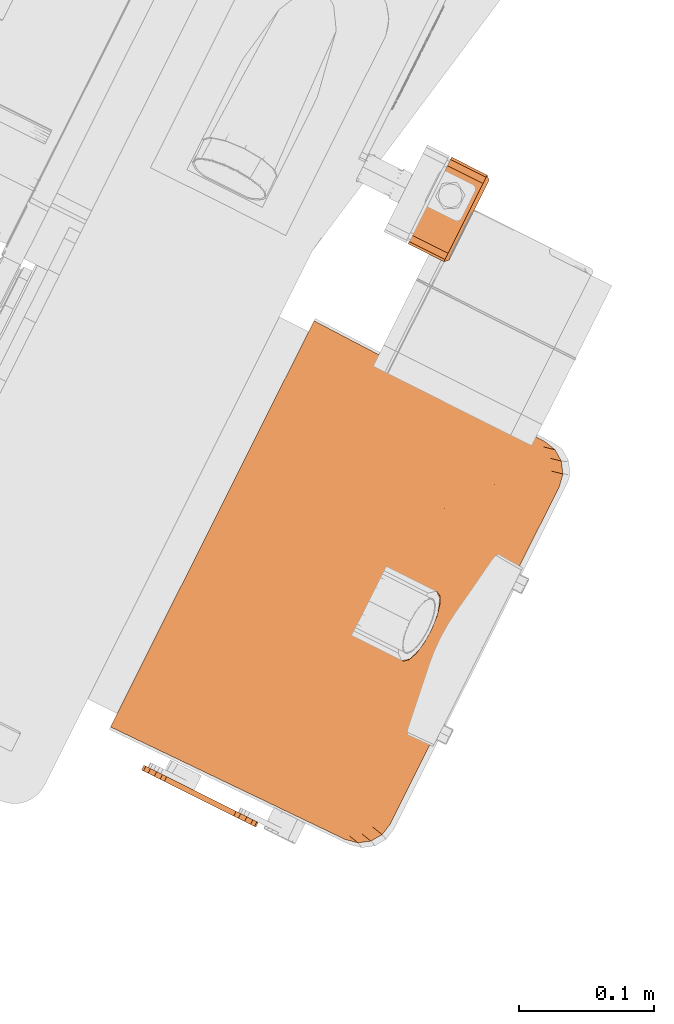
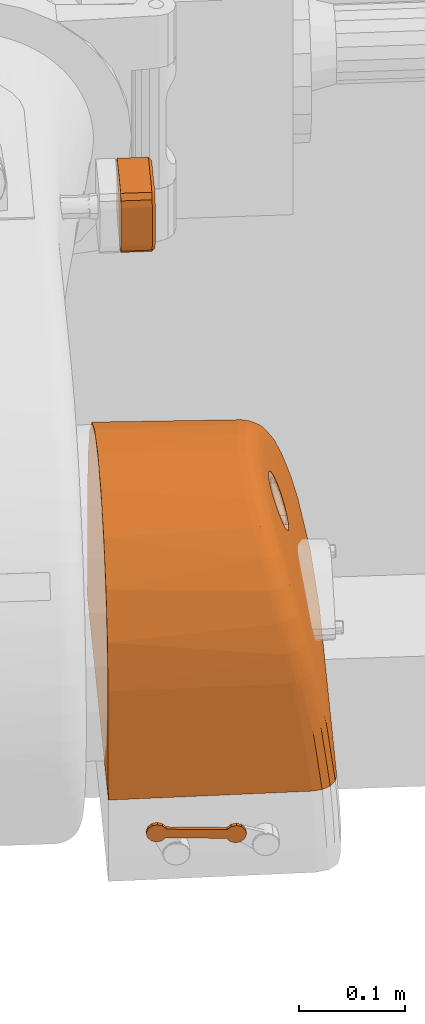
# One storey, part 187 of 206: 3 proxies.
"""IFC2X3 building model written with IfcOpenShell, lengths in metres."""

import ifcopenshell
import ifcopenshell.guid

model = None  # the IFC model being written
_history = None  # IfcOwnerHistory: only IFC2X3 demands one
_inside = {}  # id of a spatial element -> (the spatial element, [elements in it])
_under = {}  # id of a project, library or spatial element -> (it, [spatial elements below it])
_declared = {}  # id of a project -> (the project, [libraries it declares])
_typed = {}  # id of a type object -> (the type object, [elements of that type])
_made_of = {}  # id of a material, layer set ... -> (it, [elements and type objects made of it])


def new_model(schema):
    """Start an empty IFC model of exactly this schema.

    Asked for "IFC4X3", IfcOpenShell would pick the latest addendum, in which some entities
    have other attributes; the version numbers below select the first issue.
    IFC2X3 requires an IfcOwnerHistory on every rooted entity: one is made here for all.
    """
    global model, _history
    if schema == "IFC4X3":
        model = ifcopenshell.file(schema_version=(4, 3, 0, 0))
    else:
        model = ifcopenshell.file(schema=schema)
    _inside.clear()
    _under.clear()
    _declared.clear()
    _typed.clear()
    _made_of.clear()
    _history = None
    if model.schema == "IFC2X3":
        org = make("IfcOrganization", Name="unknown")
        user = make(
            "IfcPersonAndOrganization",
            ThePerson=make("IfcPerson", FamilyName="unknown"),
            TheOrganization=org,
        )
        app = make(
            "IfcApplication",
            ApplicationDeveloper=org,
            Version="unknown",
            ApplicationFullName="unknown",
            ApplicationIdentifier="unknown",
        )
        _history = make(
            "IfcOwnerHistory",
            OwningUser=user,
            OwningApplication=app,
            ChangeAction="ADDED",
            CreationDate=0,
        )
    return model


def make(cls, **values):
    """One entity of the class cls with the attributes given. An attribute that is None is left unset."""
    return model.create_entity(
        cls, **{name: value for name, value in values.items() if value is not None}
    )


def rooted(cls, **values):
    """An entity with a GlobalId (a new one), such as an element, a storey or a relation."""
    return make(cls, GlobalId=ifcopenshell.guid.new(), OwnerHistory=_history, **values)


def si_unit(unit_type, name, prefix=None):
    """IfcSIUnit, for example si_unit("LENGTHUNIT", "METRE", prefix="MILLI")."""
    return make("IfcSIUnit", UnitType=unit_type, Prefix=prefix, Name=name)


def derived_unit(unit_type, elements):
    """IfcDerivedUnit: a product of units, each with its exponent."""
    return make(
        "IfcDerivedUnit",
        Elements=[
            make("IfcDerivedUnitElement", Unit=unit, Exponent=power)
            for unit, power in elements
        ],
        UnitType=unit_type,
    )


def assignment(units):
    """IfcUnitAssignment: the units of a project."""
    return None if units is None else make("IfcUnitAssignment", Units=units)


def point(xyz):
    """IfcCartesianPoint."""
    return None if xyz is None else make("IfcCartesianPoint", Coordinates=xyz)


def direction(xyz):
    """IfcDirection."""
    return None if xyz is None else make("IfcDirection", DirectionRatios=xyz)


def frame(location, z_axis=None, x_axis=None):
    """IfcAxis2Placement3D, a coordinate frame: its origin and axes. An axis left out is left unset."""
    return make(
        "IfcAxis2Placement3D",
        Location=point(location),
        Axis=direction(z_axis),
        RefDirection=direction(x_axis),
    )


def origin():
    """The frame at (0, 0, 0) with its axes left unset."""
    return frame((0.0, 0.0, 0.0))


def place(relative_to, where):
    """IfcLocalPlacement: puts the frame where relative to a parent placement (None: the world)."""
    return make(
        "IfcLocalPlacement", PlacementRelTo=relative_to, RelativePlacement=where
    )


def context(
    kind, dimensions, precision=None, world=None, true_north=None, identifier=None
):
    """IfcGeometricRepresentationContext, for example the 3D "Model" context."""
    return make(
        "IfcGeometricRepresentationContext",
        ContextIdentifier=identifier,
        ContextType=kind,
        CoordinateSpaceDimension=dimensions,
        Precision=precision,
        WorldCoordinateSystem=world,
        TrueNorth=true_north,
    )


def subcontext(parent, identifier, kind, view, scale=None):
    """IfcGeometricRepresentationSubContext, for example "Body" below "Model"."""
    return make(
        "IfcGeometricRepresentationSubContext",
        ContextIdentifier=identifier,
        ContextType=kind,
        ParentContext=parent,
        TargetScale=scale,
        TargetView=view,
    )


def project(units=None, contexts=None):
    """IfcProject with its units and contexts."""
    return rooted(
        "IfcProject",
        Name="project",
        RepresentationContexts=contexts,
        UnitsInContext=assignment(units),
    )


def spatial(cls, under=None, at=None, **own):
    """A site, building, storey or space (cls), placed at a placement, below another one or the project."""
    s = rooted(cls, ObjectPlacement=at, **own)
    if under is not None:
        _under.setdefault(under.id(), (under, []))[1].append(s)
    return s


def faces_of(points, faces, orient=None, outer=None):
    """IfcFace entities. A face is a list of loops; a loop is a list of indices into points, from 0.

    orient and outer hold one flag for each loop. By default every Orientation is true, the
    first loop of a face is its IfcFaceOuterBound and the others are IfcFaceBound.
    """
    made = []
    for i, loops in enumerate(faces):
        bounds = []
        for j, loop in enumerate(loops):
            is_outer = j == 0 if outer is None else outer[i][j]
            bounds.append(
                make(
                    "IfcFaceOuterBound" if is_outer else "IfcFaceBound",
                    Bound=make("IfcPolyLoop", Polygon=[points[k] for k in loop]),
                    Orientation=True if orient is None else orient[i][j],
                )
            )
        made.append(make("IfcFace", Bounds=bounds))
    return made


def face_set(faces, orient=None, outer=None):
    """The faces of one IfcConnectedFaceSet. surface_model builds it on its shared points."""
    return ("IfcConnectedFaceSet", faces, orient, outer)


def faceted_brep(points, faces, orient=None, outer=None, voids=None):
    """IfcFacetedBrep: a solid bounded by flat faces; with voids (closed shells), ...WithVoids."""
    shared = [point(p) for p in points]
    hull = make("IfcClosedShell", CfsFaces=faces_of(shared, faces, orient, outer))
    if voids is None:
        return make("IfcFacetedBrep", Outer=hull)
    return make(
        "IfcFacetedBrepWithVoids",
        Outer=hull,
        Voids=[
            make(cls, CfsFaces=faces_of(shared, fs, o, b)) for cls, fs, o, b in voids
        ],
    )


def surface_model(cls, points, shells):
    """IfcFaceBasedSurfaceModel or IfcShellBasedSurfaceModel (cls): surfaces that need not close."""
    shared = [point(p) for p in points]
    made = [make(c, CfsFaces=faces_of(shared, fs, o, b)) for c, fs, o, b in shells]
    if cls == "IfcFaceBasedSurfaceModel":
        return make(cls, FbsmFaces=made)
    return make(cls, SbsmBoundary=made)


def shape(context_of_items, identifier, shape_type, items):
    """IfcShapeRepresentation: the items that make up one representation, for example the "Body"."""
    return make(
        "IfcShapeRepresentation",
        ContextOfItems=context_of_items,
        RepresentationIdentifier=identifier,
        RepresentationType=shape_type,
        Items=items,
    )


def source(mapping_origin, context_of_items, identifier, shape_type, items):
    """IfcRepresentationMap: a shape defined once, which mapped items show again and again."""
    return make(
        "IfcRepresentationMap",
        MappingOrigin=mapping_origin,
        MappedRepresentation=shape(context_of_items, identifier, shape_type, items),
    )


def transform(
    local_origin,
    x_axis=None,
    y_axis=None,
    z_axis=None,
    scale=None,
    scale2=None,
    scale3=None,
    uniform=True,
):
    """IfcCartesianTransformationOperator3D, or its non-uniform kind. x_axis, y_axis, z_axis: its Axis1, 2, 3."""
    if uniform:
        return make(
            "IfcCartesianTransformationOperator3D",
            Axis1=direction(x_axis),
            Axis2=direction(y_axis),
            LocalOrigin=point(local_origin),
            Scale=scale,
            Axis3=direction(z_axis),
        )
    return make(
        "IfcCartesianTransformationOperator3DnonUniform",
        Axis1=direction(x_axis),
        Axis2=direction(y_axis),
        LocalOrigin=point(local_origin),
        Scale=scale,
        Axis3=direction(z_axis),
        Scale2=scale2,
        Scale3=scale3,
    )


def mapped(mapping_source, mapping_target):
    """IfcMappedItem: shows the shape of a source again, moved by a transform."""
    return make(
        "IfcMappedItem", MappingSource=mapping_source, MappingTarget=mapping_target
    )


def material(Name=None, Category=None):
    """IfcMaterial."""
    return make("IfcMaterial", Name=Name, Category=Category)


def made_of(thing, what):
    """Note that an element or type object is made of a material, layer set ...; save() writes the relation."""
    if what is not None:
        _made_of.setdefault(what.id(), (what, []))[1].append(thing)
    return thing


def type_object(cls, material=None, **own):
    """A type object (cls), such as IfcWallType, which elements share."""
    return made_of(rooted(cls, **own), material)


def type_shapes(of_type, sources):
    """Give a type object the sources (RepresentationMaps) that its elements show as mapped items."""
    of_type.RepresentationMaps = sources


def element(
    cls,
    number,
    at=None,
    inside=None,
    cuts=None,
    type_object=None,
    material=None,
    context=None,
    identifier="Body",
    shape_type=None,
    held_by="IfcProductDefinitionShape",
    body=None,
    shapes=None,
    **own,
):
    """One element of the class cls, such as IfcWall. Its Tag is "e" and its number.

    at: its placement. inside: the storey or other place that contains it. cuts: it is an
    opening in that element (IfcRelVoidsElement). A single representation is given by context,
    identifier, shape_type and body (its items); several are given by shapes. held_by: the class
    of the entity that holds the representations. save() writes the other relations.
    """
    e = rooted(cls, Tag="e%d" % number, ObjectPlacement=at, **own)
    if body is not None:
        shapes = [shape(context, identifier, shape_type, body)]
    if shapes is not None:
        e.Representation = make(held_by, Representations=shapes)
    if inside is not None:
        _inside.setdefault(inside.id(), (inside, []))[1].append(e)
    if cuts is not None:
        rooted(
            "IfcRelVoidsElement", RelatingBuildingElement=cuts, RelatedOpeningElement=e
        )
    if type_object is not None:
        _typed.setdefault(type_object.id(), (type_object, []))[1].append(e)
    return made_of(e, material)


def aggregate(whole, parts):
    """IfcRelAggregates: a whole, such as a stair, and the parts it consists of."""
    return rooted("IfcRelAggregates", RelatingObject=whole, RelatedObjects=parts)


def save(model, path):
    """Write the relations noted so far, then the file.

    IfcRelAggregates (storeys below a building ...), IfcRelContainedInSpatialStructure (elements
    in a storey), IfcRelDefinesByType, IfcRelAssociatesMaterial and IfcRelDeclares: one each for
    every whole, place, type object, material and project.
    """
    for whole, parts in _under.values():
        aggregate(whole, parts)
    for where, things in _inside.values():
        rooted(
            "IfcRelContainedInSpatialStructure",
            RelatedElements=things,
            RelatingStructure=where,
        )
    for kind, things in _typed.values():
        rooted("IfcRelDefinesByType", RelatedObjects=things, RelatingType=kind)
    for what, things in _made_of.values():
        rooted("IfcRelAssociatesMaterial", RelatedObjects=things, RelatingMaterial=what)
    for by, libraries in _declared.values():
        rooted("IfcRelDeclares", RelatingContext=by, RelatedDefinitions=libraries)
    model.write(path)


model = new_model("IFC2X3")

# Units and contexts
model_context = context("Model", 3, precision=5.2338327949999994e-05, world=origin(), true_north=direction((0.0, 1.0)))
body_context = subcontext(model_context, "Body", "Model", "MODEL_VIEW")
ifc_project = project(units=[si_unit("LENGTHUNIT", "METRE"), si_unit("AREAUNIT", "SQUARE_METRE"), si_unit("VOLUMEUNIT", "CUBIC_METRE"), si_unit("MASSUNIT", "GRAM", prefix="KILO"), si_unit("PLANEANGLEUNIT", "RADIAN"), derived_unit("THERMALTRANSMITTANCEUNIT", [(si_unit("MASSUNIT", "GRAM", prefix="KILO"), 1), (si_unit("THERMODYNAMICTEMPERATUREUNIT", "KELVIN"), -1), (si_unit("TIMEUNIT", "SECOND"), -3)])], contexts=[model_context])

# Site, building, storey
site_placement = place(None, frame((0.0, 0.0, 0.0), z_axis=(0.0, 0.0, 1.0), x_axis=(0.8939966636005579, -0.4480736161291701, 0.0)))
site = spatial("IfcSite", under=ifc_project, at=site_placement, Name="Default", CompositionType="ELEMENT")
building_placement = place(site_placement, origin())
building = spatial("IfcBuilding", under=site, at=building_placement, CompositionType="ELEMENT")
storey_placement = place(building_placement, origin())
storey = spatial("IfcBuildingStorey", under=building, at=storey_placement, Name="Erdgeschoss", CompositionType="ELEMENT", Elevation=0.0)

# Proxies
ifc_material_1 = material(Name="IfcSurfaceStyle #626231")
building_element_proxy_type_1 = type_object("IfcBuildingElementProxyType", Name="BuildingElementProxy 93:BuildingElementProxy 93", PredefinedType="NOTDEFINED", material=ifc_material_1)
shared_shape_1 = source(origin(), body_context, "Body", "SurfaceModel", [
    surface_model("IfcFaceBasedSurfaceModel", [(21.707551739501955, 4.211035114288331, 0.8123468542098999), (21.706747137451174, 4.1999828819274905, 0.8145539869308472), (21.67459561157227, 4.1999828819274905, 0.8145539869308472), (21.70681224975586, 4.196799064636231, 0.8143772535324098), (21.67459561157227, 4.185595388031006, 0.8106987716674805), (21.70806798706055, 4.185986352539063, 0.8109205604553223), (21.710574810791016, 4.177632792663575, 0.8039030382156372), (21.67459561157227, 4.175062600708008, 0.8001662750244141), (21.71393972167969, 4.1724708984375, 0.7942116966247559), (21.67459561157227, 4.17120760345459, 0.7857784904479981), (21.717492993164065, 4.171289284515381, 0.7836099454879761), (21.67459561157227, 4.175062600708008, 0.771390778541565), (21.720902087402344, 4.174175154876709, 0.7730510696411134), (21.72361354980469, 4.180772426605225, 0.7643547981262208), (21.67459561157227, 4.185595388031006, 0.7608582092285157), (21.72535530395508, 4.190465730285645, 0.7586225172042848), (21.67459561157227, 4.1999828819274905, 0.7570029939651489), (21.725827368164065, 4.201566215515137, 0.757046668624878), (21.724971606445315, 4.212559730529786, 0.7598969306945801), (21.67459561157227, 4.214370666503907, 0.7608582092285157), (21.722939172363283, 4.221387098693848, 0.7665460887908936), (21.67459561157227, 4.224903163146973, 0.771390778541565), (21.719962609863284, 4.227048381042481, 0.7760063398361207), (21.67459561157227, 4.2287584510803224, 0.7857784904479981), (21.716497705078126, 4.228745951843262, 0.7866227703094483), (21.712918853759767, 4.226400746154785, 0.7971862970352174), (21.67459561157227, 4.224903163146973, 0.8001662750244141), (21.709765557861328, 4.220265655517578, 0.8061901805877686), (21.67459561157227, 4.214370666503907, 0.8106987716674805), (21.763087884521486, 4.058703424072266, 0.5663724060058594), (21.76122288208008, 4.049255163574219, 0.5663724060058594), (21.75591157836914, 4.041218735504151, 0.5663724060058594), (21.747935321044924, 4.0357873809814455, 0.5663724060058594), (21.738480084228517, 4.0337665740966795, 0.5663724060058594), (21.545196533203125, 4.030391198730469, 0.5663724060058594), (21.763087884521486, 4.339213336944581, 0.5663724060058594), (21.545196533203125, 4.367525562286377, 0.5663724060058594), (21.738480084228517, 4.364150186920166, 0.5663724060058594), (21.747935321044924, 4.362129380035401, 0.5663724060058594), (21.75591157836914, 4.356698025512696, 0.5663724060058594), (21.76122288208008, 4.348661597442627, 0.5663724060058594), (21.545196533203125, 4.363726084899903, 0.689128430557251), (21.545196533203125, 4.0341906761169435, 0.689128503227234), (21.545196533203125, 4.354273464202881, 0.7386798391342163), (21.545196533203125, 4.043643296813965, 0.7386798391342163), (21.545196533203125, 4.330280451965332, 0.7830535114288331), (21.545196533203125, 4.0676363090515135, 0.783053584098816), (21.545196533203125, 4.293993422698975, 0.8180954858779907), (21.545196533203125, 4.1039233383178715, 0.8180954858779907), (21.545196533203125, 4.248809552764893, 0.8405250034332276), (21.545196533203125, 4.149107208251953, 0.8405250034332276), (21.545196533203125, 4.198958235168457, 0.8482423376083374), (21.73058754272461, 4.035512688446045, 0.6272399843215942), (21.718537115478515, 4.037214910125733, 0.6890288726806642), (21.739873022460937, 4.037570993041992, 0.6286839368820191), (21.74771672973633, 4.043022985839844, 0.6297997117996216), (21.75296292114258, 4.0510617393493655, 0.6304220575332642), (21.75483024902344, 4.060496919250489, 0.6304589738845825), (21.7424844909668, 4.062197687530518, 0.6937756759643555), (21.74062646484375, 4.052777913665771, 0.6936251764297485), (21.73841497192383, 4.048508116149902, 0.6932436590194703), (21.735447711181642, 4.044747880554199, 0.6926743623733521), (21.73183630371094, 4.041637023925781, 0.6919386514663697), (21.72771329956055, 4.039291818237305, 0.6910637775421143), (21.723232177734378, 4.037799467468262, 0.6900825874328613), (21.754834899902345, 4.337420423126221, 0.6304337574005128), (21.752967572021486, 4.346855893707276, 0.6303969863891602), (21.747721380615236, 4.354894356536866, 0.6297747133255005), (21.73987534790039, 4.360346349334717, 0.6286591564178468), (21.730592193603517, 4.362404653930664, 0.6272154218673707), (21.71856036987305, 4.360701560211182, 0.689031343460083), (21.723241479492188, 4.360115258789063, 0.6900845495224), (21.725099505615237, 4.359613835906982, 0.6904947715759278), (21.727697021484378, 4.358631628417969, 0.6910605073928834), (21.731840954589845, 4.3562768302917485, 0.6919394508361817), (21.735440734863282, 4.353177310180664, 0.6926727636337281), (21.73841497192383, 4.349409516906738, 0.6932435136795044), (21.740624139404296, 4.345144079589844, 0.693624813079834), (21.7424844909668, 4.335719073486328, 0.6937756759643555), (21.733864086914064, 4.0565608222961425, 0.7217988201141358), (21.73602907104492, 4.065494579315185, 0.7203404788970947), (21.72915042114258, 4.073590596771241, 0.7456650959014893), (21.72666685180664, 4.065456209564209, 0.7485070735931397), (21.72217177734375, 4.086223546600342, 0.7690120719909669), (21.719376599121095, 4.079136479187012, 0.7730066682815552), (21.715534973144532, 4.102960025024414, 0.7895028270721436), (21.712453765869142, 4.097102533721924, 0.7944089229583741), (21.70964696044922, 4.123396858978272, 0.8065207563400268), (21.706330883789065, 4.118904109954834, 0.812112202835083), (21.705014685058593, 4.146751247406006, 0.819259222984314), (21.701519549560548, 4.143708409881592, 0.8253218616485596), (21.702021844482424, 4.172362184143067, 0.8272139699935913), (21.698419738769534, 4.170831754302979, 0.8335528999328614), (21.700996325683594, 4.198960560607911, 0.8298952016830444), (21.697354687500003, 4.198960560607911, 0.8363240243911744), (21.698431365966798, 4.227224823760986, 0.8335204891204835), (21.691994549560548, 4.198960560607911, 0.8414081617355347), (21.6930735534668, 4.228626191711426, 0.8385046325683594), (21.685383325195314, 4.198960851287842, 0.8447036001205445), (21.686434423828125, 4.2297665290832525, 0.8416923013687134), (21.67809539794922, 4.198959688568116, 0.8459226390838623), (21.679109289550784, 4.230542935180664, 0.8428005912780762), (21.702033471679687, 4.225686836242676, 0.8271826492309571), (21.701531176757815, 4.254295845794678, 0.8252914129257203), (21.696180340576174, 4.257059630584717, 0.8299773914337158), (21.689471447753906, 4.259281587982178, 0.8328511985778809), (21.682023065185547, 4.260730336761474, 0.8336544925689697), (21.70502631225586, 4.251248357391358, 0.8192297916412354), (21.706351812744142, 4.279104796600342, 0.8120536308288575), (21.701012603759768, 4.283153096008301, 0.8162463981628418), (21.694185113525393, 4.2863473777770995, 0.8186233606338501), (21.686553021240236, 4.2883728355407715, 0.8189434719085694), (21.709667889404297, 4.2746065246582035, 0.8064642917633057), (21.712449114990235, 4.3008011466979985, 0.7944217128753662), (21.70713083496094, 4.306021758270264, 0.7979311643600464), (21.70380545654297, 4.308211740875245, 0.7990350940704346), (21.7140978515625, 4.325051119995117, 0.7756044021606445), (21.710700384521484, 4.327622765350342, 0.7763097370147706), (21.721395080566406, 4.339528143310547, 0.7501454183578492), (21.717925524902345, 4.34238465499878, 0.7504023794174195), (21.72865975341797, 4.349067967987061, 0.7221211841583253), (21.725115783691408, 4.352106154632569, 0.7218926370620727), (21.715530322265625, 4.294944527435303, 0.7895151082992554), (21.71938822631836, 4.318802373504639, 0.7729663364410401), (21.72218572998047, 4.311714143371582, 0.7689734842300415), (21.726652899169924, 4.33244165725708, 0.7485507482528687), (21.72433676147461, 4.336176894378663, 0.7495207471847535), (21.733880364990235, 4.341371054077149, 0.7217321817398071), (21.731615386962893, 4.345446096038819, 0.7220665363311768), (21.729138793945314, 4.324309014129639, 0.745706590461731), (21.736043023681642, 4.332435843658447, 0.7202774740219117), (21.72110905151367, 4.354458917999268, 0.7213905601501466), (21.716774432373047, 4.356039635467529, 0.7206308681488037), (21.709867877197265, 4.346266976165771, 0.7497963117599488), (21.705535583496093, 4.347165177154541, 0.7489537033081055), (21.698754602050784, 4.332248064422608, 0.7757748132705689), (21.712270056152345, 4.356796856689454, 0.7196417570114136), (21.70291481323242, 4.331280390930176, 0.7763906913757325), (21.69226895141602, 4.312426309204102, 0.7994227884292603), (21.696271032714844, 4.311454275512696, 0.7997936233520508), (21.68642279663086, 4.168302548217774, 0.8417271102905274), (21.679097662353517, 4.1675287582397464, 0.8428367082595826), (21.689459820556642, 4.138730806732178, 0.8328839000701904), (21.682013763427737, 4.137245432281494, 0.8336768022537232), (21.694164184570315, 4.111669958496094, 0.8186863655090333), (21.68653209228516, 4.10964944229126, 0.8190135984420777), (21.696273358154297, 4.0864479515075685, 0.7997795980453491), (21.692271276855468, 4.085487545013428, 0.7994186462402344), (21.702903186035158, 4.066660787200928, 0.7764345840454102), (21.698740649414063, 4.065695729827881, 0.7758242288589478), (21.709879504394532, 4.0516291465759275, 0.7497487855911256), (21.70554721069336, 4.050731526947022, 0.7489041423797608), (21.716758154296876, 4.041893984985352, 0.7207032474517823), (21.712256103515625, 4.04113531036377, 0.7197067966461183), (21.721090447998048, 4.043474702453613, 0.7214623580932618), (21.71405366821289, 4.053239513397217, 0.7502383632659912), (21.70692387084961, 4.0682202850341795, 0.7766185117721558), (21.700154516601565, 4.087862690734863, 0.7996485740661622), (21.703807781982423, 4.089691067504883, 0.7990215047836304), (21.700991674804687, 4.114860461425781, 0.8163071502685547), (21.707135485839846, 4.091881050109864, 0.797917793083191), (21.725099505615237, 4.045827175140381, 0.7219635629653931), (21.728643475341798, 4.0488653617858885, 0.7221908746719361), (21.73159910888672, 4.052486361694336, 0.7221347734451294), (21.69305960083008, 4.169437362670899, 0.8385382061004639), (21.70015219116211, 4.310039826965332, 0.7996623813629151), (21.706937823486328, 4.329720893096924, 0.7765752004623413), (21.714042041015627, 4.344656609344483, 0.7502853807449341), (21.714083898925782, 4.07288889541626, 0.7756462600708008), (21.724348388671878, 4.061720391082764, 0.7494760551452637), (21.71068875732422, 4.07031812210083, 0.7763523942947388), (21.721409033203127, 4.058368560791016, 0.7500997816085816), (21.717939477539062, 4.05551146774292, 0.7503560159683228), (21.696168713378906, 4.140949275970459, 0.8300089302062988)], [face_set([[[0, 1, 2]], [[2, 1, 3]], [[2, 3, 4]], [[4, 3, 5]], [[4, 5, 6]], [[4, 6, 7]], [[7, 6, 8]], [[7, 8, 9]], [[9, 8, 10]], [[9, 10, 11]], [[11, 10, 12]], [[11, 12, 13]], [[11, 13, 14]], [[14, 13, 15]], [[14, 15, 16]], [[16, 15, 17]], [[16, 17, 18]], [[16, 18, 19]], [[19, 18, 20]], [[19, 20, 21]], [[21, 20, 22]], [[21, 22, 23]], [[23, 22, 24]], [[23, 24, 25]], [[23, 25, 26]], [[26, 25, 27]], [[26, 27, 28]], [[28, 27, 0]], [[28, 0, 2]], [[26, 28, 4]], [[26, 4, 7]], [[23, 26, 7]], [[23, 7, 9]], [[23, 9, 21]], [[21, 9, 11]], [[21, 11, 19]], [[19, 11, 14]], [[19, 14, 16]], [[28, 2, 4]], [[29, 30, 31]], [[29, 31, 32]], [[29, 32, 33]], [[29, 33, 34]], [[35, 29, 34]], [[34, 36, 35]], [[35, 36, 37]], [[35, 37, 38]], [[38, 39, 35]], [[35, 39, 40]], [[36, 34, 41]], [[41, 34, 42]], [[41, 42, 43]], [[43, 42, 44]], [[43, 44, 45]], [[45, 44, 46]], [[45, 46, 47]], [[47, 46, 48]], [[47, 48, 49]], [[49, 48, 50]], [[49, 50, 51]], [[33, 52, 34]], [[34, 52, 42]], [[52, 53, 42]], [[54, 52, 33]], [[54, 33, 32]], [[55, 54, 32]], [[55, 32, 31]], [[56, 55, 31]], [[56, 31, 30]], [[56, 30, 29]], [[29, 57, 56]], [[56, 57, 58]], [[56, 58, 59]], [[56, 59, 60]], [[56, 60, 55]], [[55, 60, 61]], [[61, 62, 55]], [[55, 62, 54]], [[62, 63, 54]], [[54, 63, 64]], [[54, 64, 52]], [[52, 64, 53]], [[65, 35, 66]], [[66, 35, 40]], [[66, 40, 39]], [[66, 39, 67]], [[67, 39, 38]], [[67, 38, 68]], [[68, 38, 37]], [[68, 37, 69]], [[69, 70, 71]], [[69, 71, 68]], [[68, 71, 72]], [[68, 72, 73]], [[68, 73, 74]], [[68, 74, 67]], [[67, 74, 75]], [[67, 75, 76]], [[67, 76, 66]], [[76, 77, 66]], [[66, 77, 78]], [[78, 65, 66]], [[59, 58, 79]], [[79, 58, 80]], [[79, 80, 81]], [[79, 81, 82]], [[82, 81, 83]], [[82, 83, 84]], [[84, 83, 85]], [[84, 85, 86]], [[86, 85, 87]], [[86, 87, 88]], [[88, 87, 89]], [[88, 89, 90]], [[90, 89, 91]], [[90, 91, 92]], [[92, 91, 93]], [[92, 93, 94]], [[94, 93, 95]], [[96, 94, 95]], [[96, 95, 97]], [[98, 96, 97]], [[98, 97, 99]], [[100, 98, 99]], [[100, 99, 101]], [[93, 102, 95]], [[95, 102, 103]], [[97, 95, 103]], [[97, 103, 104]], [[99, 97, 104]], [[99, 104, 105]], [[101, 99, 105]], [[101, 105, 106]], [[102, 107, 103]], [[103, 107, 108]], [[104, 103, 108]], [[104, 108, 109]], [[105, 104, 109]], [[105, 109, 110]], [[106, 105, 110]], [[106, 110, 111]], [[107, 112, 108]], [[108, 112, 113]], [[109, 108, 113]], [[109, 113, 114]], [[109, 114, 115]], [[115, 114, 116]], [[115, 116, 117]], [[117, 116, 118]], [[117, 118, 119]], [[119, 118, 120]], [[119, 120, 121]], [[121, 120, 75]], [[121, 75, 74]], [[112, 122, 113]], [[113, 122, 123]], [[114, 113, 123]], [[114, 123, 116]], [[122, 124, 123]], [[123, 124, 125]], [[123, 125, 126]], [[126, 125, 127]], [[126, 127, 128]], [[128, 127, 77]], [[128, 77, 76]], [[124, 129, 125]], [[125, 129, 127]], [[129, 130, 127]], [[127, 130, 78]], [[127, 78, 77]], [[120, 128, 76]], [[120, 76, 75]], [[131, 121, 74]], [[131, 74, 73]], [[131, 73, 72]], [[131, 72, 132]], [[131, 132, 133]], [[133, 132, 134]], [[133, 134, 135]], [[72, 71, 132]], [[132, 71, 136]], [[132, 136, 134]], [[71, 70, 136]], [[133, 135, 137]], [[137, 135, 138]], [[137, 138, 139]], [[139, 138, 111]], [[139, 111, 110]], [[140, 98, 100]], [[140, 100, 141]], [[142, 140, 141]], [[142, 141, 143]], [[144, 142, 143]], [[144, 143, 145]], [[144, 145, 146]], [[146, 145, 147]], [[146, 147, 148]], [[148, 147, 149]], [[148, 149, 150]], [[150, 149, 151]], [[150, 151, 152]], [[152, 151, 153]], [[152, 153, 64]], [[64, 153, 53]], [[64, 63, 152]], [[152, 63, 154]], [[152, 154, 150]], [[150, 154, 155]], [[150, 155, 148]], [[148, 155, 156]], [[148, 156, 146]], [[146, 156, 157]], [[146, 157, 144]], [[144, 157, 158]], [[144, 158, 159]], [[159, 158, 160]], [[159, 160, 86]], [[84, 86, 160]], [[154, 63, 62]], [[154, 62, 161]], [[161, 62, 61]], [[161, 61, 162]], [[162, 61, 60]], [[162, 60, 163]], [[163, 60, 59]], [[163, 59, 79]], [[90, 92, 164]], [[164, 92, 96]], [[164, 96, 98]], [[165, 115, 117]], [[165, 117, 166]], [[139, 165, 166]], [[139, 166, 137]], [[115, 165, 110]], [[110, 165, 139]], [[166, 117, 119]], [[166, 119, 167]], [[137, 166, 167]], [[137, 167, 133]], [[121, 131, 167]], [[167, 131, 133]], [[123, 126, 116]], [[116, 126, 118]], [[167, 119, 121]], [[118, 126, 128]], [[118, 128, 120]], [[110, 109, 115]], [[92, 94, 96]], [[160, 168, 84]], [[84, 168, 169]], [[84, 169, 82]], [[79, 82, 169]], [[168, 160, 158]], [[168, 158, 170]], [[171, 168, 170]], [[171, 170, 172]], [[162, 171, 172]], [[162, 172, 161]], [[98, 140, 164]], [[173, 164, 140]], [[164, 173, 90]], [[88, 90, 173]], [[86, 88, 159]], [[159, 88, 173]], [[159, 173, 142]], [[142, 173, 140]], [[142, 144, 159]], [[172, 170, 156]], [[156, 170, 157]], [[162, 163, 171]], [[171, 163, 169]], [[171, 169, 168]], [[154, 161, 155]], [[155, 161, 172]], [[155, 172, 156]], [[170, 158, 157]], [[169, 163, 79]], [[25, 24, 122]], [[25, 122, 112]], [[27, 25, 112]], [[27, 112, 107]], [[0, 27, 107]], [[0, 107, 102]], [[1, 0, 102]], [[1, 102, 93]], [[1, 93, 3]], [[3, 93, 91]], [[3, 91, 89]], [[122, 24, 22]], [[124, 122, 22]], [[124, 22, 20]], [[129, 124, 20]], [[129, 20, 18]], [[129, 18, 17]], [[130, 129, 17]], [[130, 17, 80]], [[130, 80, 58]], [[80, 17, 81]], [[81, 17, 15]], [[81, 15, 13]], [[81, 13, 83]], [[83, 13, 12]], [[83, 12, 10]], [[83, 10, 85]], [[85, 10, 8]], [[85, 8, 87]], [[87, 8, 6]], [[87, 6, 5]], [[87, 5, 89]], [[89, 5, 3]], [[35, 65, 29]], [[29, 65, 57]], [[65, 78, 57]], [[57, 78, 58]], [[78, 130, 58]], [[37, 36, 69]], [[69, 36, 41]], [[69, 41, 70]], [[70, 41, 136]], [[136, 41, 43]], [[136, 43, 134]], [[134, 43, 45]], [[134, 45, 135]], [[135, 45, 138]], [[45, 47, 138]], [[138, 47, 111]], [[111, 47, 106]], [[106, 47, 49]], [[106, 49, 101]], [[101, 49, 51]], [[101, 51, 100]], [[141, 100, 51]], [[51, 50, 141]], [[141, 50, 143]], [[50, 48, 143]], [[143, 48, 145]], [[147, 145, 48]], [[147, 48, 46]], [[149, 147, 46]], [[149, 46, 44]], [[149, 44, 151]], [[153, 151, 44]], [[44, 42, 153]], [[53, 153, 42]]])]),
])
type_shapes(building_element_proxy_type_1, [shared_shape_1])
proxy_1_placement = place(storey_placement, origin())
element("IfcBuildingElementProxy", 1, at=proxy_1_placement, inside=storey, type_object=building_element_proxy_type_1, material=ifc_material_1, Name="BuildingElementProxy 93", context=body_context, shape_type="MappedRepresentation", body=[
    mapped(shared_shape_1, transform((0.0, 0.0, 0.0), scale=1.0)),
])
ifc_material_2 = material(Name="IfcSurfaceStyle #623543")
building_element_proxy_type_2 = type_object("IfcBuildingElementProxyType", Name="BuildingElementProxy 100:BuildingElementProxy 100", PredefinedType="NOTDEFINED", material=ifc_material_2)
shared_shape_2 = source(origin(), body_context, "Body", "Brep", [
    faceted_brep([(21.614621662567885, 4.456443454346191, 0.9381892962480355), (21.614321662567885, 4.455067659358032, 0.9451058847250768), (21.614621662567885, 4.455067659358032, 0.945105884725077), (21.614321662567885, 4.45644345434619, 0.9520224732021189), (21.61462166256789, 4.456443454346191, 0.9520224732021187), (21.614321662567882, 4.460361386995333, 0.9578860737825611), (21.61462166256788, 4.460361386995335, 0.9578860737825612), (21.614321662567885, 4.466224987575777, 0.9618040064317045), (21.61462166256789, 4.466224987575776, 0.9618040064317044), (21.614321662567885, 4.473141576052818, 0.9631798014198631), (21.614621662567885, 4.473141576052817, 0.9631798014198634), (21.614321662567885, 4.480058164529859, 0.9618040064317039), (21.614621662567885, 4.480058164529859, 0.9618040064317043), (21.614321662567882, 4.4859217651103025, 0.9578860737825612), (21.614621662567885, 4.4859217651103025, 0.9578860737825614), (21.614321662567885, 4.489839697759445, 0.9520224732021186), (21.614621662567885, 4.489839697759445, 0.9520224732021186), (21.614321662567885, 4.491215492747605, 0.9451058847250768), (21.614621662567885, 4.491215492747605, 0.945105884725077), (21.614321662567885, 4.489839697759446, 0.9381892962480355), (21.61462166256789, 4.489839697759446, 0.9381892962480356), (21.614321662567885, 4.485921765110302, 0.9323256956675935), (21.61462166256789, 4.4859217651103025, 0.9323256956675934), (21.614321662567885, 4.48005816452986, 0.9284077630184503), (21.614621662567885, 4.480058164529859, 0.9284077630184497), (21.614321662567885, 4.473141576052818, 0.9270319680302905), (21.614621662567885, 4.473141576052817, 0.9270319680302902), (21.614321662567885, 4.466224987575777, 0.9284077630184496), (21.61462166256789, 4.466224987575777, 0.9284077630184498), (21.614321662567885, 4.460361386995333, 0.9323256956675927), (21.61462166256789, 4.460361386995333, 0.932325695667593), (21.614321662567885, 4.45644345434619, 0.9381892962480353), (21.61462166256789, 4.507841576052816, 0.9653319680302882), (21.611621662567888, 4.507841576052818, 0.9683319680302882), (21.61462166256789, 4.463841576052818, 0.9653319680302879), (21.61162166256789, 4.463841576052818, 0.968331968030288), (21.614621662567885, 4.518841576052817, 0.9543319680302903), (21.611621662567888, 4.521841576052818, 0.9543319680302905), (21.61462166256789, 4.51800425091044, 0.9585414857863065), (21.61162166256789, 4.519965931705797, 0.9613319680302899), (21.61462166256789, 4.515619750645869, 0.9621101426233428), (21.61162166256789, 4.514841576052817, 0.9664563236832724), (21.614621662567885, 4.512051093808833, 0.9644946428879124), (21.614621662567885, 4.452841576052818, 0.9543319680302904), (21.614621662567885, 4.453678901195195, 0.9585414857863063), (21.61162166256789, 4.449841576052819, 0.9543319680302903), (21.611621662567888, 4.451717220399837, 0.9613319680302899), (21.614621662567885, 4.456063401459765, 0.9621101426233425), (21.611621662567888, 4.456841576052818, 0.9664563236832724), (21.61462166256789, 4.459632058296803, 0.9644946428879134), (21.611621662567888, 4.521841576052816, 0.9103319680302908), (21.61462166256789, 4.518841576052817, 0.9103319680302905), (21.61462166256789, 4.45284157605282, 0.9103319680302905), (21.61162166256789, 4.44984157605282, 0.9103319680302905), (21.614621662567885, 4.507841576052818, 0.8993319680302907), (21.611621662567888, 4.507841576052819, 0.8963319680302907), (21.614621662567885, 4.512051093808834, 0.9001692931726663), (21.61162166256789, 4.514841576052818, 0.8982076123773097), (21.614621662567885, 4.515619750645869, 0.9025537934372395), (21.61162166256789, 4.519965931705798, 0.903331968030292), (21.61462166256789, 4.5180042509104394, 0.9061224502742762), (21.614621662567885, 4.463841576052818, 0.8993319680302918), (21.614621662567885, 4.459632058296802, 0.9001692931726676), (21.61162166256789, 4.463841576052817, 0.8963319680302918), (21.611621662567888, 4.456841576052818, 0.8982076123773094), (21.614621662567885, 4.456063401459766, 0.9025537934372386), (21.611621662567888, 4.451717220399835, 0.9033319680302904), (21.614621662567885, 4.453678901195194, 0.9061224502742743), (21.582021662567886, 4.463841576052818, 0.8963319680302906), (21.582021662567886, 4.456841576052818, 0.8982076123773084), (21.582021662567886, 4.4517172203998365, 0.90333196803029), (21.58202166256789, 4.449841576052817, 0.9103319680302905), (21.582021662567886, 4.449841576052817, 0.9543319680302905), (21.582021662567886, 4.4517172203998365, 0.9613319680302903), (21.58202166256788, 4.456841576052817, 0.9664563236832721), (21.58202166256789, 4.463841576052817, 0.9683319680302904), (21.582021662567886, 4.507841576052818, 0.9683319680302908), (21.582021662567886, 4.521841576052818, 0.9103319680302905), (21.582021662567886, 4.507841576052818, 0.8963319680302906), (21.582021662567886, 4.514841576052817, 0.8982076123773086), (21.582021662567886, 4.521841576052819, 0.9543319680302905), (21.58202166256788, 4.514841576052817, 0.9664563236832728), (21.582021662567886, 4.5199659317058, 0.9613319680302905), (21.58202166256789, 4.5199659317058, 0.9033319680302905)], [[[0, 1, 2]], [[2, 1, 3]], [[2, 3, 4]], [[4, 3, 5]], [[4, 5, 6]], [[6, 5, 7]], [[6, 7, 8]], [[8, 7, 9]], [[8, 9, 10]], [[10, 9, 11]], [[10, 11, 12]], [[12, 11, 13]], [[12, 13, 14]], [[14, 13, 15]], [[14, 15, 16]], [[16, 15, 17]], [[16, 17, 18]], [[18, 17, 19]], [[18, 19, 20]], [[20, 19, 21]], [[20, 21, 22]], [[22, 21, 23]], [[22, 23, 24]], [[24, 23, 25]], [[24, 25, 26]], [[26, 25, 27]], [[26, 27, 28]], [[28, 27, 29]], [[28, 29, 30]], [[30, 29, 31]], [[30, 31, 0]], [[0, 31, 1]], [[17, 15, 19]], [[19, 15, 21]], [[15, 13, 21]], [[21, 13, 23]], [[13, 11, 23]], [[23, 11, 25]], [[11, 9, 25]], [[25, 9, 27]], [[9, 7, 27]], [[27, 7, 29]], [[7, 5, 29]], [[29, 5, 31]], [[5, 3, 31]], [[31, 3, 1]], [[32, 33, 34]], [[34, 33, 35]], [[36, 37, 38]], [[38, 37, 39]], [[38, 39, 40]], [[40, 39, 41]], [[40, 41, 42]], [[42, 41, 33]], [[42, 33, 32]], [[43, 44, 45]], [[45, 44, 46]], [[44, 47, 46]], [[46, 47, 48]], [[47, 49, 48]], [[48, 49, 35]], [[49, 34, 35]], [[50, 37, 51]], [[51, 37, 36]], [[52, 43, 53]], [[53, 43, 45]], [[54, 55, 56]], [[56, 55, 57]], [[56, 57, 58]], [[58, 57, 59]], [[58, 59, 60]], [[60, 59, 50]], [[60, 50, 51]], [[61, 62, 63]], [[63, 62, 64]], [[62, 65, 64]], [[64, 65, 66]], [[65, 67, 66]], [[66, 67, 53]], [[67, 52, 53]], [[55, 54, 63]], [[63, 54, 61]], [[63, 64, 68]], [[68, 64, 69]], [[64, 66, 69]], [[69, 66, 70]], [[66, 53, 70]], [[70, 53, 71]], [[53, 45, 71]], [[71, 45, 72]], [[45, 46, 72]], [[72, 46, 73]], [[46, 48, 73]], [[73, 48, 74]], [[48, 35, 74]], [[74, 35, 75]], [[33, 76, 35]], [[35, 76, 75]], [[49, 47, 6]], [[6, 47, 44]], [[6, 44, 4]], [[4, 44, 43]], [[4, 43, 2]], [[2, 43, 52]], [[2, 52, 0]], [[0, 52, 30]], [[6, 8, 49]], [[49, 8, 34]], [[8, 10, 34]], [[34, 10, 32]], [[10, 12, 32]], [[32, 12, 14]], [[32, 14, 16]], [[16, 18, 32]], [[32, 18, 36]], [[32, 36, 42]], [[42, 36, 40]], [[18, 20, 36]], [[36, 20, 51]], [[20, 22, 51]], [[51, 22, 54]], [[51, 54, 60]], [[60, 54, 58]], [[22, 24, 54]], [[54, 24, 61]], [[24, 26, 61]], [[61, 26, 52]], [[61, 52, 67]], [[26, 28, 52]], [[52, 28, 30]], [[67, 65, 61]], [[61, 65, 62]], [[54, 56, 58]], [[36, 38, 40]], [[69, 71, 68]], [[68, 71, 77]], [[68, 77, 78]], [[78, 77, 79]], [[69, 70, 71]], [[77, 71, 80]], [[80, 71, 72]], [[80, 72, 76]], [[76, 72, 75]], [[72, 73, 75]], [[75, 73, 74]], [[81, 82, 76]], [[76, 82, 80]], [[77, 83, 79]], [[63, 68, 55]], [[55, 68, 78]], [[50, 59, 77]], [[77, 59, 83]], [[59, 57, 83]], [[83, 57, 79]], [[57, 55, 79]], [[79, 55, 78]], [[37, 50, 80]], [[80, 50, 77]], [[33, 41, 76]], [[76, 41, 81]], [[41, 39, 81]], [[81, 39, 82]], [[39, 37, 82]], [[82, 37, 80]]]),
])
type_shapes(building_element_proxy_type_2, [shared_shape_2])
proxy_2_placement = place(storey_placement, origin())
element("IfcBuildingElementProxy", 2, at=proxy_2_placement, inside=storey, type_object=building_element_proxy_type_2, material=ifc_material_2, Name="BuildingElementProxy 100", context=body_context, shape_type="MappedRepresentation", body=[
    mapped(shared_shape_2, transform((0.0, 0.0, 0.0), scale=1.0)),
])
ifc_material_3 = material(Name="IfcSurfaceStyle #624289")
building_element_proxy_type_3 = type_object("IfcBuildingElementProxyType", Name="BuildingElementProxy 110:BuildingElementProxy 110", PredefinedType="NOTDEFINED", material=ifc_material_3)
shared_shape_3 = source(origin(), body_context, "Body", "Brep", [
    faceted_brep([(21.65661257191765, 4.012176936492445, 0.5403542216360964), (21.65661257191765, 4.016176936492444, 0.5403542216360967), (21.599014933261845, 4.012176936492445, 0.5434260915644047), (21.59901493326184, 4.016176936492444, 0.543426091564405), (21.660462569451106, 4.012176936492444, 0.5438143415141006), (21.660462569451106, 4.016176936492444, 0.5438143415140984), (21.665526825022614, 4.012176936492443, 0.5448858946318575), (21.66552682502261, 4.016176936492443, 0.5448858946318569), (21.67044837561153, 4.012176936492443, 0.5432817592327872), (21.67044837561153, 4.016176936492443, 0.5432817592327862), (21.673908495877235, 4.012176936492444, 0.5394317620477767), (21.673908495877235, 4.016176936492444, 0.5394317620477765), (21.67498004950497, 4.012176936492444, 0.5343675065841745), (21.67498004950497, 4.016176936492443, 0.5343675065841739), (21.673375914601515, 4.012176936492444, 0.5294459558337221), (21.673375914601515, 4.016176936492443, 0.5294459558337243), (21.669525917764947, 4.012176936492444, 0.5259858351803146), (21.669525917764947, 4.016176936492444, 0.5259858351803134), (21.66446166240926, 4.012176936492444, 0.5249142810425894), (21.664461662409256, 4.016176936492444, 0.5249142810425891), (21.659540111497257, 4.012176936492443, 0.5265184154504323), (21.65954011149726, 4.016176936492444, 0.5265184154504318), (21.656079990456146, 4.012176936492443, 0.5303684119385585), (21.65607999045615, 4.016176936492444, 0.5303684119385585), (21.59848236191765, 4.012176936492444, 0.5334402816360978), (21.59848236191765, 4.016176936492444, 0.5334402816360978), (21.59463236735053, 4.012176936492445, 0.529980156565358), (21.59463236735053, 4.016176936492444, 0.5299801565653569), (21.589568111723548, 4.012176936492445, 0.5289085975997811), (21.589568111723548, 4.016176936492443, 0.5289085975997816), (21.584646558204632, 4.012176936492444, 0.5305127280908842), (21.584646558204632, 4.016176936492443, 0.530512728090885), (21.581186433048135, 4.012176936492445, 0.5343627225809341), (21.581186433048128, 4.016176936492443, 0.5343627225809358), (21.580100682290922, 4.012176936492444, 0.5388944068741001), (21.580100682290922, 4.016176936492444, 0.5388944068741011), (21.580114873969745, 4.016176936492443, 0.5394269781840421), (21.580114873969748, 4.012176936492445, 0.539426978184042), (21.581719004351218, 4.012176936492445, 0.5443485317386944), (21.58171900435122, 4.016176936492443, 0.5443485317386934), (21.585568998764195, 4.012176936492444, 0.5478086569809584), (21.585568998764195, 4.016176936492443, 0.5478086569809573), (21.590633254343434, 4.012176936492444, 0.5488802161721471), (21.590633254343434, 4.016176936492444, 0.5488802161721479), (21.595554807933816, 4.012176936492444, 0.5472760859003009), (21.595554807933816, 4.016176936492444, 0.5472760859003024)], [[[0, 1, 2]], [[2, 1, 3]], [[0, 4, 1]], [[1, 4, 5]], [[4, 6, 5]], [[5, 6, 7]], [[6, 8, 7]], [[7, 8, 9]], [[8, 10, 9]], [[9, 10, 11]], [[10, 12, 11]], [[11, 12, 13]], [[12, 14, 13]], [[13, 14, 15]], [[14, 16, 15]], [[15, 16, 17]], [[16, 18, 17]], [[17, 18, 19]], [[18, 20, 19]], [[19, 20, 21]], [[20, 22, 21]], [[21, 22, 23]], [[24, 25, 22]], [[22, 25, 23]], [[24, 26, 25]], [[25, 26, 27]], [[26, 28, 27]], [[27, 28, 29]], [[28, 30, 29]], [[29, 30, 31]], [[30, 32, 31]], [[31, 32, 33]], [[32, 34, 33]], [[33, 34, 35]], [[35, 34, 36]], [[36, 34, 37]], [[36, 37, 38]], [[36, 38, 39]], [[39, 38, 40]], [[39, 40, 41]], [[41, 40, 42]], [[41, 42, 43]], [[43, 42, 44]], [[43, 44, 45]], [[45, 44, 2]], [[45, 2, 3]], [[38, 37, 2]], [[2, 37, 24]], [[2, 24, 0]], [[0, 24, 22]], [[0, 22, 10]], [[10, 22, 12]], [[2, 44, 38]], [[38, 44, 40]], [[44, 42, 40]], [[37, 34, 24]], [[24, 34, 32]], [[24, 32, 30]], [[28, 26, 30]], [[30, 26, 24]], [[12, 22, 14]], [[14, 22, 20]], [[14, 20, 16]], [[16, 20, 18]], [[10, 8, 0]], [[0, 8, 4]], [[8, 6, 4]], [[27, 31, 25]], [[25, 31, 33]], [[25, 33, 35]], [[27, 29, 31]], [[35, 36, 25]], [[25, 36, 3]], [[25, 3, 1]], [[36, 39, 3]], [[3, 39, 45]], [[39, 41, 45]], [[45, 41, 43]], [[5, 9, 1]], [[1, 9, 11]], [[1, 11, 23]], [[23, 11, 13]], [[23, 13, 15]], [[5, 7, 9]], [[23, 15, 21]], [[21, 15, 17]], [[21, 17, 19]], [[23, 25, 1]]]),
])
type_shapes(building_element_proxy_type_3, [shared_shape_3])
proxy_3_placement = place(storey_placement, origin())
element("IfcBuildingElementProxy", 3, at=proxy_3_placement, inside=storey, type_object=building_element_proxy_type_3, material=ifc_material_3, Name="BuildingElementProxy 110", context=body_context, shape_type="MappedRepresentation", body=[
    mapped(shared_shape_3, transform((0.0, 0.0, 0.0), scale=1.0)),
])

save(model, "model.ifc")
